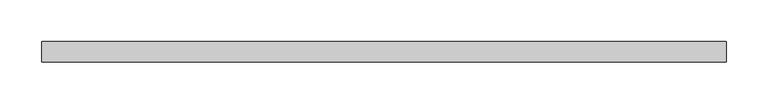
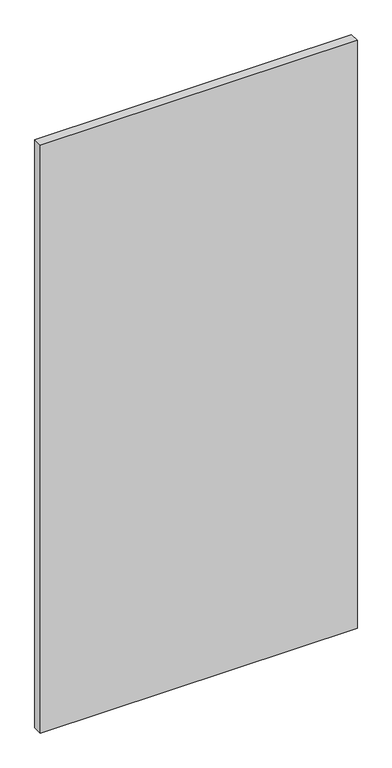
"""IFC4 building model written with IfcOpenShell, lengths in millimetres: plate geometry, 系统嵌板 : 玻璃."""

from ifc_helpers import new_model, si_unit, origin, origin_with_axes, place, context, project, spatial, polyline, outline, extrude, source, transform, mapped, element, save


def plate_3fd0e253(model_context):
    return source(origin(), model_context, "Body", "SweptSolid", [
        extrude(outline(polyline([(412.5, -12.5), (-412.5, -12.5), (-412.5, 12.5), (412.5, 12.5), (412.5, -12.5)])), origin_with_axes(), (0.0, 0.0, 1.0), 1616.6666667),
    ])


if __name__ == "__main__":
    model = new_model("IFC4")
    model_context = context("Model", 3, world=origin())
    ifc_project = project(units=[si_unit("LENGTHUNIT", "METRE", prefix="MILLI")], contexts=[model_context])
    site = spatial("IfcSite", under=ifc_project)
    building = spatial("IfcBuilding", under=site)
    placement = place(None, origin())
    plate_shape = plate_3fd0e253(model_context)
    element("IfcPlate", 1, ObjectType="系统嵌板 : 玻璃", at=placement, inside=building, context=model_context, shape_type="MappedRepresentation", body=[
        mapped(plate_shape, transform((0.0, 0.0, 0.0), x_axis=(1.0, 0.0, 0.0), y_axis=(0.0, 1.0, 0.0), z_axis=(0.0, 0.0, 1.0))),
    ])
    save(model, "model.ifc")
